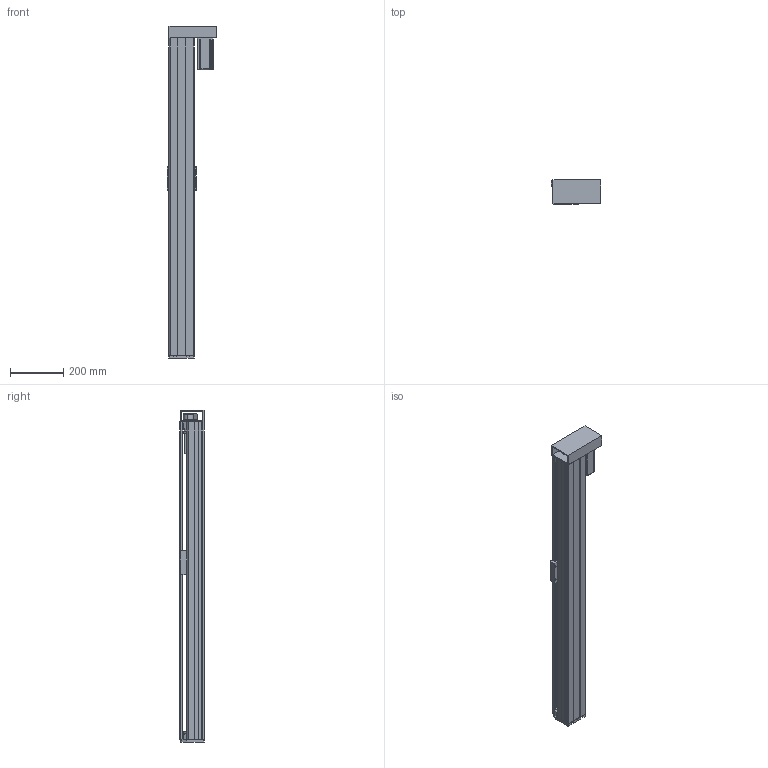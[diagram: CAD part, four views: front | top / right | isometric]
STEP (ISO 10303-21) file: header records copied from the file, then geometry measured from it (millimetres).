
FILE_DESCRIPTION (( 'STEP AP214' ), '1' );
FILE_NAME ('CF92-2-20-C-1000-FWR.STEP', '2016-04-24T09:36:35', ( '' ), ( '' ), 'SwSTEP 2.0', 'SolidWorks 2015', '' );
FILE_SCHEMA (( 'AUTOMOTIVE_DESIGN' ));
Length unit declared in the file: millimetre
Products named in the file (16): 95滅袉蝶菜; 95裔啣-1; SFS1605-500; sfdj-400w; HGR15絳寢; CF92-2-20-C-1000-FWR; HTD-320-5M-20; 95耜啣; hGH15CA賑輸; 95盓厥傷; 95粣創裔啣; 9090180; CF95-2臏倰第; CF95嘐隅釱; 20-5M-20-囀噤10; CF95邧絳寢賑輸
Assembly tree (19 placements, depth 2):
  CF92-2-20-C-1000-FWR
    CF95-2臏倰第
    95滅袉蝶菜  x2
    95粣創裔啣
    SFS1605-500
    95裔啣-1
    CF95嘐隅釱
    HGR15絳寢  x2
    hGH15CA賑輸  x2
    95盓厥傷
    CF95邧絳寢賑輸
    9090180
    sfdj-400w
    95耜啣
    20-5M-20-囀噤10  x2
    HTD-320-5M-20
Bounding box: 187.23 x 90.61 x 1246 mm (x, y, z)
Volume: 4329173 mm3; surface area: 1326626.3 mm2
Topology: 19 solids, 19 shells, 1231 faces, 3383 edges, 2226 vertices
Faces by surface type: plane 595, cylinder 502, bspline 130, cone 4
Entity records: 41698 total; most frequent: CARTESIAN_POINT 14411, ORIENTED_EDGE 5702, DIRECTION 5167, EDGE_CURVE 2851, VERTEX_POINT 1882, VECTOR 1767, LINE 1767, AXIS2_PLACEMENT_3D 1700
